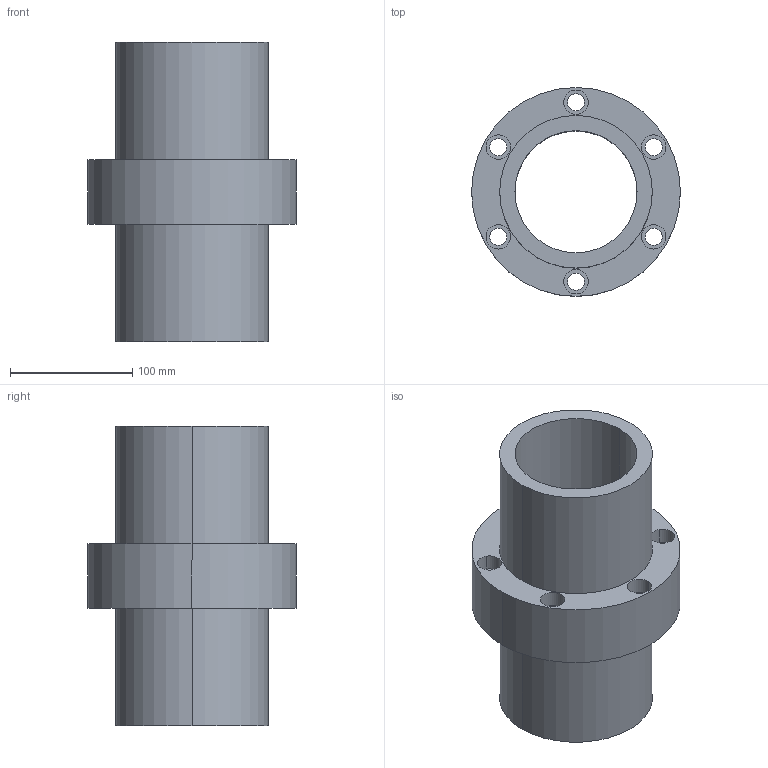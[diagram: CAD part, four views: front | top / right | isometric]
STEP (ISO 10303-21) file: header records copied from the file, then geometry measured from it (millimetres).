
FILE_DESCRIPTION((''),'2;1');
FILE_NAME('100-10T6','2008-04-07T',('yanyu'),(''),'PRO/ENGINEER BY PARAMETRIC TECHNOLOGY CORPORATION, 2005070','PRO/ENGINEER BY PARAMETRIC TECHNOLOGY CORPORATION, 2005070','');
FILE_SCHEMA(('CONFIG_CONTROL_DESIGN'));
Length unit declared in the file: millimetre
Products named in the file (1): 100-10T6
Bounding box: 171 x 171 x 245 mm (x, y, z)
Volume: 1587708.3 mm3; surface area: 224672.6 mm2
Topology: 1 solids, 1 shells, 42 faces, 104 edges, 72 vertices
Faces by surface type: cylinder 32, plane 10
Entity records: 1370 total; most frequent: DIRECTION 260, CARTESIAN_POINT 218, ORIENTED_EDGE 208, AXIS2_PLACEMENT_3D 114, EDGE_CURVE 104, VERTEX_POINT 72, CIRCLE 72, EDGE_LOOP 64
